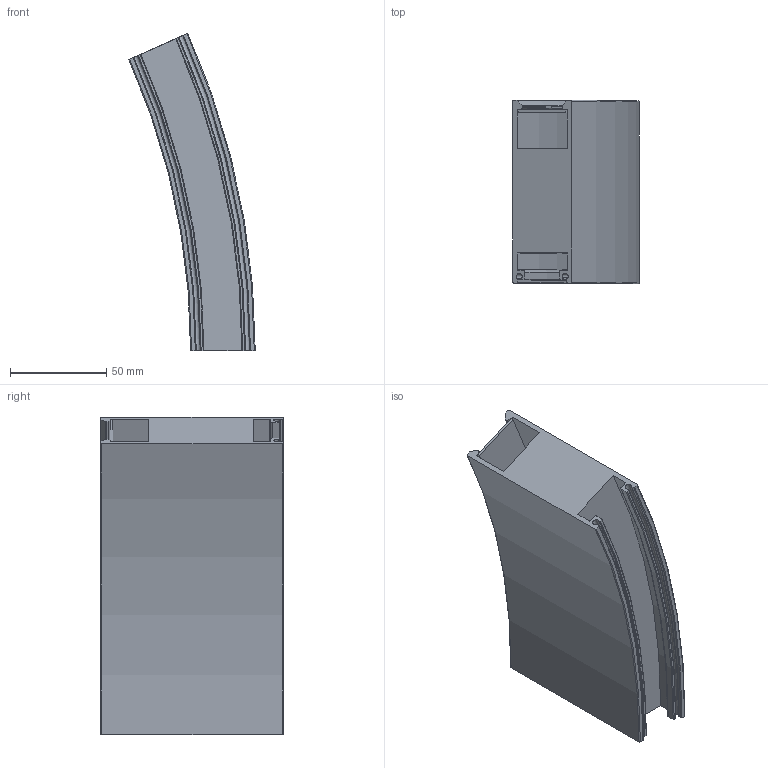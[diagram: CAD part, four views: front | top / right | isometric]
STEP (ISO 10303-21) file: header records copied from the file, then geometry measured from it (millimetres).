
FILE_DESCRIPTION(/* description */ (''),/* implementation_level */ '2;1');
FILE_NAME(/* name */ 'Evelo S R400 Blank Assembly.stp',/* time_stamp */ '2024-09-20T16:58:08+10:00',/* author */ ('Mlight Projects'),/* organization */ (''),/* preprocessor_version */ 'ST-DEVELOPER v20',/* originating_system */ 'Autodesk Inventor 2024',/* authorisation */ '');
FILE_SCHEMA (('AUTOMOTIVE_DESIGN { 1 0 10303 214 3 1 1 }'));
Length unit declared in the file: millimetre
Products named in the file (3): Evelo S R400 Optics Assembly; Body R200; Blanks R300
Assembly tree (2 placements, depth 2):
  Evelo S R400 Optics Assembly
    Body R200
    Blanks R300
Bounding box: 65.78 x 95.1 x 165.05 mm (x, y, z)
Volume: 344930.2 mm3; surface area: 74464 mm2
Topology: 2 solids, 2 shells, 66 faces, 186 edges, 124 vertices
Faces by surface type: torus 28, plane 18, cylinder 12, cone 8
Entity records: 2315 total; most frequent: DIRECTION 446, CARTESIAN_POINT 381, ORIENTED_EDGE 372, AXIS2_PLACEMENT_3D 189, EDGE_CURVE 186, VERTEX_POINT 124, CIRCLE 118, LINE 68
